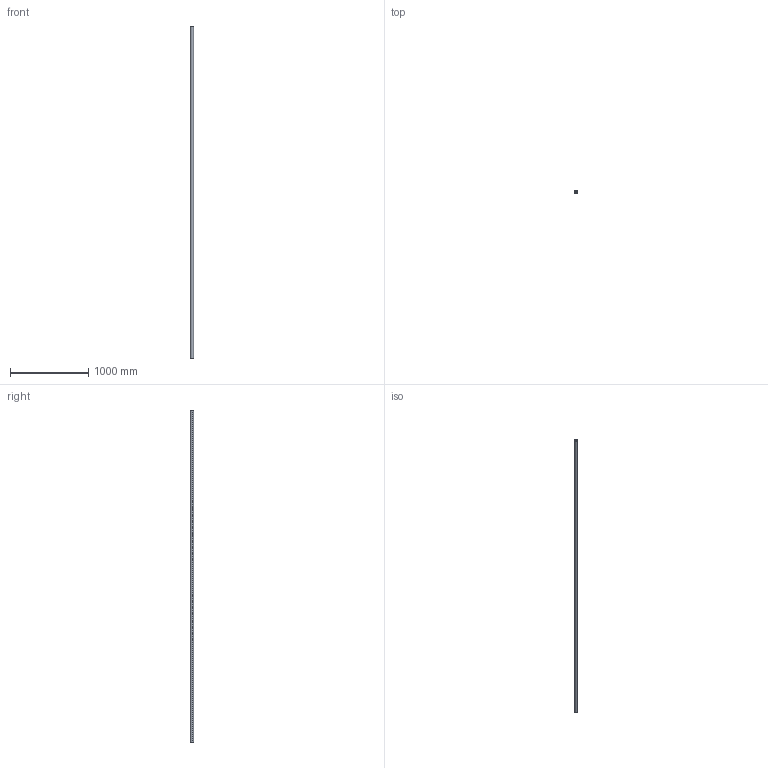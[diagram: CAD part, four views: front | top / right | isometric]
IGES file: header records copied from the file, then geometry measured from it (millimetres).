
Start section: SolidWorks IGES file using analytic representation for surfaces
Global section: file name: C:\Users\IanO\Desktop\L1771_v2\L1771.40_v2\L1771.40_v2_20230705_IGES\L1771.40-4250.igs; native system: SolidWorks 2019; preprocessor: SolidWorks 2019; author: IanO; date: 230705.162410; units: millimetre
Bounding box: 40 x 40 x 4250 mm (x, y, z)
Surface area: 909202 mm2 (no closed solid volume)
Topology: 0 solids, 0 shells, 6 faces, 272 edges, 272 vertices
Faces by surface type: revolution 4, bspline 2
